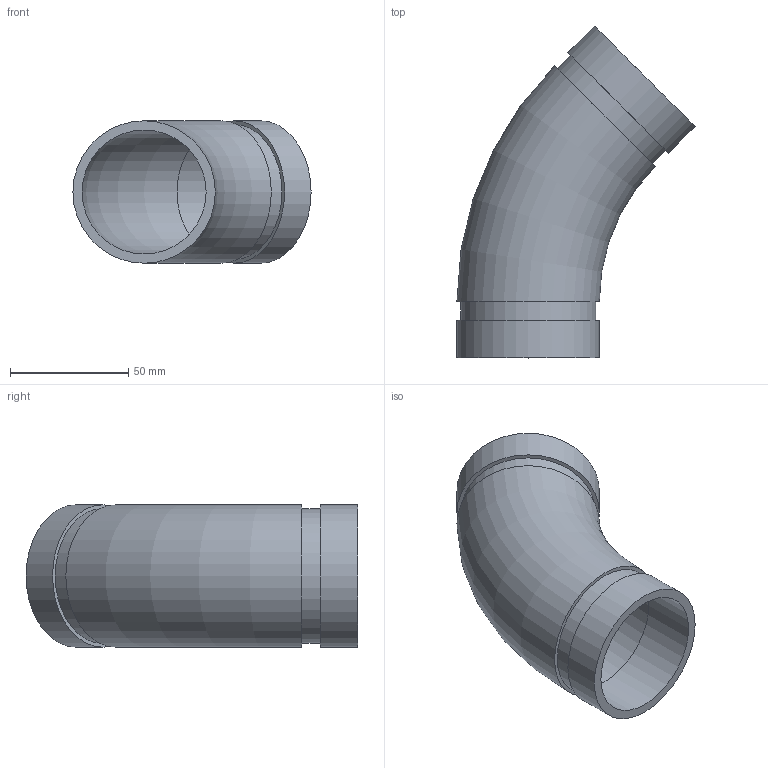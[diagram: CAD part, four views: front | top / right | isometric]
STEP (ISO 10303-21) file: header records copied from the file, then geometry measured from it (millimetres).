
FILE_DESCRIPTION(/* description */ ('VIC SS ELBOW 45 DEG No 411DX (OGS)'),/* implementation_level */ '2;1');
FILE_NAME(/* name */ 'C:\Files for Export\SS Duplex\STEP\Victaulic_SS-OGS_Elb 45 Deg_No 411DX (OGS)\Victaulic_SS-OGS_Elb 45 Deg_No 411DX (OGS)_2 (50).stp',/* time_stamp */ '2024-08-28T10:36:09+02:00',/* author */ ('CORINNE GRAY'),/* organization */ ('Victaulic'),/* preprocessor_version */ 'ST-DEVELOPER v18.1',/* originating_system */ 'Autodesk Inventor 2020',/* authorisation */ '');
FILE_SCHEMA (('AUTOMOTIVE_DESIGN { 1 0 10303 214 3 1 1 }'));
Length unit declared in the file: inch
Products named in the file (1): 411DX-02.0
Bounding box: 100.88 x 140.57 x 60.33 mm (x, y, z)
Volume: 88873.9 mm3; surface area: 50222.4 mm2
Topology: 1 solids, 1 shells, 14 faces, 26 edges, 18 vertices
Faces by surface type: plane 6, cylinder 6, torus 2
Full cylindrical faces by diameter (mm): 52.502 x2, 57.15 x2, 60.325 x2
Entity records: 427 total; most frequent: DIRECTION 76, CARTESIAN_POINT 59, ORIENTED_EDGE 52, AXIS2_PLACEMENT_3D 35, EDGE_CURVE 26, EDGE_LOOP 20, CIRCLE 20, VERTEX_POINT 18
